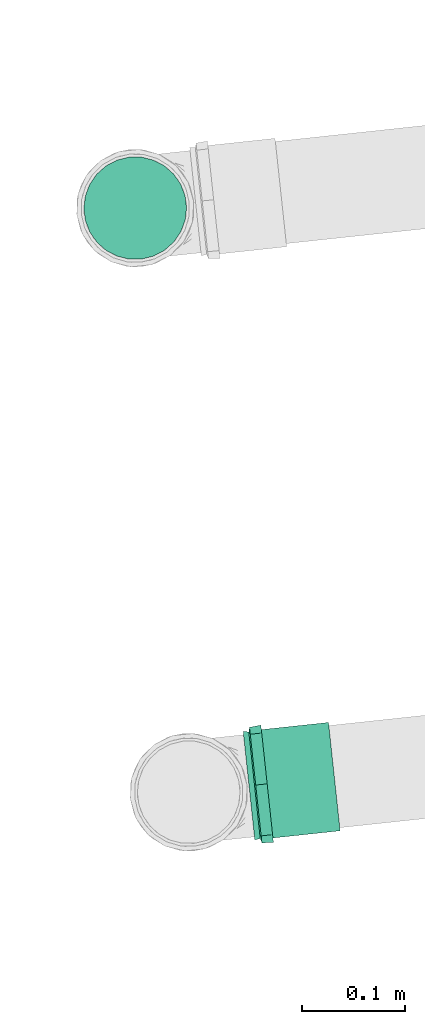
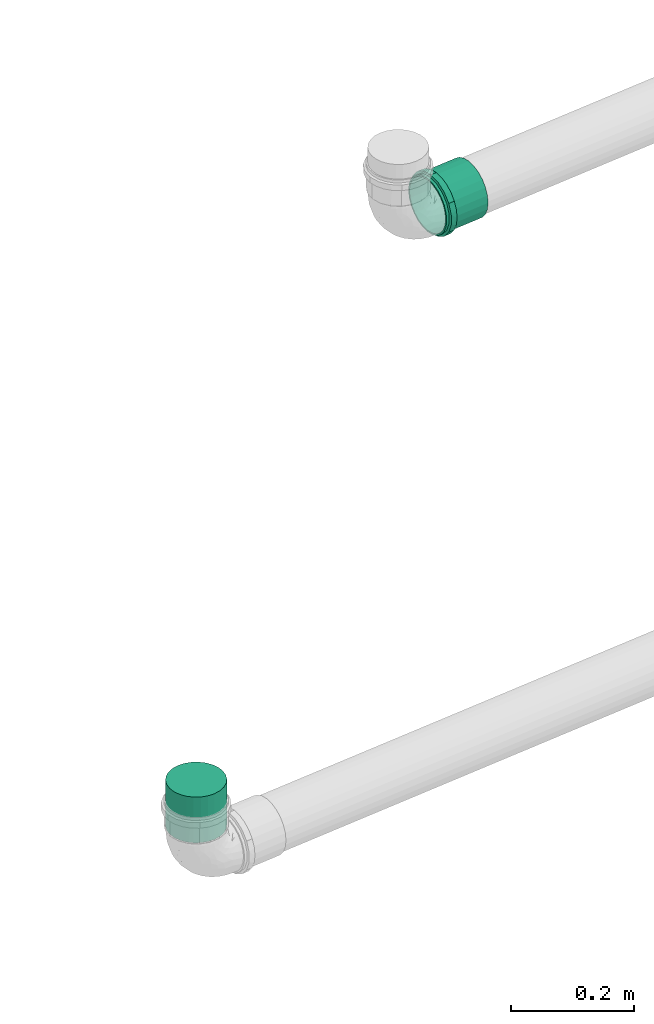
# One storey, part 40 of 97: 1 flow fitting, 1 flow segment.
"""IFC2X3 building model written with IfcOpenShell, lengths in centimetres."""

from ifc_helpers import new_model, entity, si_unit, converted_unit, derived_unit, direction, frame, origin, origin_2d_with_axis, place, context, subcontext, project, spatial, circle, extrude, faceted_brep, source, transform, mapped, material, type_object, type_shapes, element, save


model = new_model("IFC2X3")

# Units and contexts
model_context = context("Model", 3, precision=0.001, world=origin(), true_north=direction((6.12303176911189e-17, 1.0)))
body_context = subcontext(model_context, "Body", "Model", "MODEL_VIEW")
ifc_project = project(units=[si_unit("LENGTHUNIT", "METRE", prefix="CENTI"), si_unit("AREAUNIT", "SQUARE_METRE"), si_unit("VOLUMEUNIT", "CUBIC_METRE"), converted_unit("PLANEANGLEUNIT", "DEGREE", entity("IfcRatioMeasure", 0.0174532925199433), si_unit("PLANEANGLEUNIT", "RADIAN"), dimensions=[0, 0, 0, 0, 0, 0, 0]), si_unit("MASSUNIT", "GRAM", prefix="KILO"), derived_unit("MASSDENSITYUNIT", [(si_unit("MASSUNIT", "GRAM", prefix="KILO"), 1), (si_unit("LENGTHUNIT", "METRE"), -3)]), derived_unit("MOMENTOFINERTIAUNIT", [(si_unit("LENGTHUNIT", "METRE"), 4)]), si_unit("TIMEUNIT", "SECOND"), si_unit("FREQUENCYUNIT", "HERTZ"), si_unit("THERMODYNAMICTEMPERATUREUNIT", "DEGREE_CELSIUS"), derived_unit("THERMALTRANSMITTANCEUNIT", [(si_unit("MASSUNIT", "GRAM", prefix="KILO"), 1), (si_unit("THERMODYNAMICTEMPERATUREUNIT", "KELVIN"), -1), (si_unit("TIMEUNIT", "SECOND"), -3)]), derived_unit("VOLUMETRICFLOWRATEUNIT", [(si_unit("LENGTHUNIT", "METRE"), 3), (si_unit("TIMEUNIT", "SECOND"), -1)]), si_unit("ELECTRICCURRENTUNIT", "AMPERE"), si_unit("ELECTRICVOLTAGEUNIT", "VOLT"), si_unit("POWERUNIT", "WATT"), si_unit("FORCEUNIT", "NEWTON", prefix="KILO"), si_unit("ILLUMINANCEUNIT", "LUX"), si_unit("LUMINOUSFLUXUNIT", "LUMEN"), si_unit("LUMINOUSINTENSITYUNIT", "CANDELA"), derived_unit("USERDEFINED", [(si_unit("MASSUNIT", "GRAM", prefix="KILO"), -1), (si_unit("LENGTHUNIT", "METRE"), -2), (si_unit("TIMEUNIT", "SECOND"), 3), (si_unit("LUMINOUSFLUXUNIT", "LUMEN"), 1)]), derived_unit("LINEARVELOCITYUNIT", [(si_unit("LENGTHUNIT", "METRE"), 1), (si_unit("TIMEUNIT", "SECOND"), -1)]), si_unit("PRESSUREUNIT", "PASCAL"), derived_unit("USERDEFINED", [(si_unit("LENGTHUNIT", "METRE"), -2), (si_unit("MASSUNIT", "GRAM", prefix="KILO"), 1), (si_unit("TIMEUNIT", "SECOND"), -2)]), derived_unit("LINEARFORCEUNIT", [(si_unit("MASSUNIT", "GRAM", prefix="KILO"), 1), (si_unit("LENGTHUNIT", "METRE"), 1), (si_unit("TIMEUNIT", "SECOND"), -2), (si_unit("LENGTHUNIT", "METRE"), -1)]), derived_unit("PLANARFORCEUNIT", [(si_unit("MASSUNIT", "GRAM", prefix="KILO"), 1), (si_unit("LENGTHUNIT", "METRE"), 1), (si_unit("TIMEUNIT", "SECOND"), -2), (si_unit("LENGTHUNIT", "METRE"), -2)])], contexts=[model_context])

# Site, building, storey
site_placement = place(None, origin())
site = spatial("IfcSite", under=ifc_project, at=site_placement, Name="Default", CompositionType="ELEMENT")
building_placement = place(site_placement, origin())
building = spatial("IfcBuilding", under=site, at=building_placement, Name="HIDROSSANITÁRIO", CompositionType="ELEMENT")
storey_placement = place(building_placement, frame((0.0, 0.0, -260.0)))
storey = spatial("IfcBuildingStorey", under=building, at=storey_placement, Name="TÉRREO-HID", CompositionType="ELEMENT", Elevation=-260.0)

# Flow segment
pipe_segment_type = type_object("IfcPipeSegmentType", Name="Tipos de tubos:Tubo - Esgoto - Série Normal", PredefinedType="NOTDEFINED")
flow_segment_placement = place(storey_placement, origin())
element("IfcFlowSegment", 1, at=flow_segment_placement, inside=storey, type_object=pipe_segment_type, Name="Tipos de tubos:Tubo - Esgoto - Série Normal", ObjectType="Tipos de tubos:Tubo - Esgoto - Série Normal", context=body_context, shape_type="SweptSolid", body=[
    extrude(circle(Radius=5.0, at=origin_2d_with_axis()), frame((2768.67605010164, 1394.24133598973, 466.4), z_axis=(0.0, 0.0, 1.0), x_axis=(-1.0, 0.0, 0.0)), (0.0, 0.0, 1.0), 9.09999999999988),
])

# Flow fitting
ifc_material = material(Name="PVC Branco")
pipe_fitting_type = type_object("IfcPipeFittingType", Name="Luva Simples para Conexão - Serie Normal - Esgoto - MEP - Tigre:Standard", PredefinedType="NOTDEFINED", material=ifc_material)
shared_shape = source(origin(), body_context, "Body", "Brep", [
    faceted_brep([(1.77700000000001, 2.8725, -4.9753159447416), (1.77700000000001, 4.06232845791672, -4.06232845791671), (1.77700000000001, 2.65249999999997, -4.59426476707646), (1.77700000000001, 1.37303503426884, -5.12423650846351), (1.77700000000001, 1.48691541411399, -5.5492438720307), (1.77700000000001, 3.75120147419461, -3.75120147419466), (1.77700000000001, 4.9753159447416, -2.8725), (1.77700000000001, 4.59426476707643, -2.65250000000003), (1.77700000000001, 5.1242365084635, -1.37303503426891), (1.77700000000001, 5.5492438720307, -1.48691541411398), (1.77700000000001, 5.305, 0.0), (1.77700000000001, 5.745, 0.0), (1.77700000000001, 5.1242365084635, 1.3730350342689), (1.77700000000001, 5.54924387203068, 1.48691541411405), (1.77700000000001, 4.59426476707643, 2.65250000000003), (1.77700000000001, 4.97531594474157, 2.87250000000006), (1.77700000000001, 3.75120147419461, 3.75120147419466), (1.77700000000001, 4.06232845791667, 4.06232845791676), (1.77700000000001, 2.65249999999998, 4.59426476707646), (1.77700000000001, 2.87249999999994, 4.97531594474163), (1.77700000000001, 1.37303503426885, 5.12423650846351), (1.77700000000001, 1.48691541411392, 5.54924387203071), (1.77700000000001, 0.0, 5.305), (1.77700000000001, 0.0, 5.745), (1.77700000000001, -1.37303503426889, 5.1242365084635), (1.77700000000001, -1.48691541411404, 5.54924387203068), (1.77700000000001, -2.65250000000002, 4.59426476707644), (1.77700000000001, -2.87250000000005, 4.97531594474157), (1.77700000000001, -3.75120147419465, 3.75120147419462), (1.77700000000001, -4.06232845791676, 4.06232845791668), (1.77700000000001, -4.59426476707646, 2.65249999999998), (1.77700000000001, -4.97531594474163, 2.87249999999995), (1.77700000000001, -5.54924387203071, 1.48691541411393), (1.77700000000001, -5.12423650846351, 1.37303503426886), (1.77700000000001, -5.745, 0.0), (1.77700000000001, -5.305, 0.0), (1.77700000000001, -5.54924387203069, -1.486915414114), (1.77700000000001, -5.12423650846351, -1.37303503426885), (1.77700000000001, -4.97531594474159, -2.87250000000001), (1.77700000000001, -4.59426476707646, -2.65249999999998), (1.77700000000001, -4.06232845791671, -4.06232845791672), (1.77700000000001, -3.75120147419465, -3.75120147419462), (1.77700000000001, -2.87249999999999, -4.97531594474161), (1.77700000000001, -2.65250000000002, -4.59426476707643), (1.77700000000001, -1.48691541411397, -5.5492438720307), (1.77700000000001, -1.3730350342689, -5.1242365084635), (1.77700000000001, 0.0, -5.745), (1.77700000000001, 0.0, -5.305), (0.657000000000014, -1.93463887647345, 5.31665771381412), (0.657000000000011, -4.4007619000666, 3.69300957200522), (0.657000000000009, -4.89962626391, 2.82901737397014), (0.657000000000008, -5.39849062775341, 1.96502517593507), (0.657000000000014, -2.87216972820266, 4.97550661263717), (0.657000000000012, -3.63646581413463, 4.3342580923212), (0.657000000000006, -5.5717453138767, 0.982512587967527), (0.657000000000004, -5.745, 0.0), (0.657000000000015, -0.997108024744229, 5.65780881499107), (0.657000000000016, 0.998234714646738, 5.65761013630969), (0.657000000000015, 0.0005633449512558, 5.65770947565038), (0.657000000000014, 3.63732887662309, 4.33353383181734), (0.657000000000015, 1.93569761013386, 5.31627233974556), (0.657000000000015, 2.87316050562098, 4.97493454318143), (0.65700000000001, 5.39888184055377, 1.96395006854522), (0.657000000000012, 4.90018954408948, 2.82804159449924), (0.657000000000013, 4.40149724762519, 3.69213312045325), (0.657000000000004, 5.745, 0.0), (0.656999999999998, 4.40149724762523, -3.6921331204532), (0.657, 4.90018954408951, -2.82804159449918), (0.657000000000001, 5.39888184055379, -1.96395006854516), (0.656999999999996, 2.87316050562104, -4.9749345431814), (0.656999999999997, 3.63732887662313, -4.3335338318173), (0.656999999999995, 1.93569761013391, -5.31627233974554), (0.656999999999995, 0.998234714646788, -5.65761013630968), (0.656999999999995, -0.997108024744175, -5.65780881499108), (0.656999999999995, 0.000563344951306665, -5.65770947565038), (0.656999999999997, -3.6364658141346, -4.33425809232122), (0.656999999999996, -2.87216972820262, -4.9755066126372), (0.656999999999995, -1.9346388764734, -5.31665771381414), (0.657000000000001, -5.39849062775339, -1.96502517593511), (0.657, -4.89962626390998, -2.82901737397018), (0.656999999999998, -4.40076190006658, -3.69300957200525), (0.657000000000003, -5.5717453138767, -0.982512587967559), (8.35200000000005, 2.6525, -4.59426476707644), (8.35200000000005, 3.75120147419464, -3.75120147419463), (8.35200000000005, 2.49999999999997, -4.33012701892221), (8.35200000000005, 1.29409522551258, -4.82962913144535), (8.35200000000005, 1.37303503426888, -5.1242365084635), (8.35200000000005, 3.53553390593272, -3.53553390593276), (8.35200000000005, 4.59426476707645, -2.6525), (8.35200000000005, 4.33012701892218, -2.50000000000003), (8.35200000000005, 4.82962913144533, -1.29409522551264), (8.35200000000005, 5.12423650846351, -1.37303503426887), (8.35200000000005, 5.0, 0.0), (8.35200000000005, 5.305, 0.0), (8.35200000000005, 4.82962913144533, 1.29409522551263), (8.35200000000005, 5.12423650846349, 1.37303503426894), (8.35200000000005, 4.33012701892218, 2.50000000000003), (8.35200000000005, 4.59426476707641, 2.65250000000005), (8.35200000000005, 3.53553390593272, 3.53553390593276), (8.35200000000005, 3.75120147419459, 3.75120147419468), (8.35200000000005, 2.49999999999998, 4.33012701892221), (8.35200000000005, 2.65249999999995, 4.59426476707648), (8.35200000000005, 1.29409522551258, 4.82962913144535), (8.35200000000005, 1.37303503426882, 5.12423650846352), (8.35200000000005, 0.0, 5.0), (8.35200000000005, 0.0, 5.305), (8.35200000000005, -1.29409522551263, 4.82962913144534), (8.35200000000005, -1.37303503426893, 5.12423650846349), (8.35200000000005, -2.50000000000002, 4.33012701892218), (8.35200000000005, -2.65250000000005, 4.59426476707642), (8.35200000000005, -3.53553390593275, 3.53553390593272), (8.35200000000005, -3.75120147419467, 3.7512014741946), (8.35200000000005, -4.3301270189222, 2.49999999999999), (8.35200000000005, -4.59426476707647, 2.65249999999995), (8.35200000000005, -5.12423650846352, 1.37303503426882), (8.35200000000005, -4.82962913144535, 1.29409522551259), (8.35200000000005, -5.305, 0.0), (8.35200000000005, -5.0, 0.0), (8.35200000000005, -5.1242365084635, -1.37303503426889), (8.35200000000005, -4.82962913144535, -1.29409522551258), (8.35200000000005, -4.59426476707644, -2.65250000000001), (8.35200000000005, -4.3301270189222, -2.49999999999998), (8.35200000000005, -3.75120147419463, -3.75120147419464), (8.35200000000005, -3.53553390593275, -3.53553390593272), (8.35200000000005, -2.65249999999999, -4.59426476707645), (8.35200000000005, -2.50000000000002, -4.33012701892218), (8.35200000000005, -1.37303503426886, -5.12423650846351), (8.35200000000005, -1.29409522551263, -4.82962913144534), (8.35200000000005, 0.0, -5.305), (8.35200000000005, 0.0, -5.0), (0.0, 2.49999999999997, -4.33012701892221), (0.0, 3.75120147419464, -3.75120147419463), (0.0, 2.6525, -4.59426476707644), (0.0, 1.29409522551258, -4.82962913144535), (0.0, 3.53553390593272, -3.53553390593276), (0.0, 4.59426476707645, -2.6525), (0.0, 4.33012701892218, -2.50000000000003), (0.0, 4.82962913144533, -1.29409522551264), (0.0, 5.12423650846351, -1.37303503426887), (0.0, 5.0, 0.0), (0.0, 5.305, 0.0), (0.0, 4.82962913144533, 1.29409522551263), (0.0, 5.12423650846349, 1.37303503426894), (0.0, 4.33012701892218, 2.50000000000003), (0.0, 4.59426476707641, 2.65250000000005), (0.0, 3.53553390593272, 3.53553390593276), (0.0, 3.75120147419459, 3.75120147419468), (0.0, 2.49999999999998, 4.33012701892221), (0.0, 2.65249999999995, 4.59426476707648), (0.0, 1.29409522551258, 4.82962913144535), (0.0, 1.37303503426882, 5.12423650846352), (0.0, 0.0, 5.0), (0.0, 0.0, 5.305), (0.0, -1.29409522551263, 4.82962913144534), (0.0, -1.37303503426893, 5.12423650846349), (0.0, -2.50000000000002, 4.33012701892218), (0.0, -2.65250000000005, 4.59426476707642), (0.0, -3.53553390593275, 3.53553390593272), (0.0, -3.75120147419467, 3.7512014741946), (0.0, -4.3301270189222, 2.49999999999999), (0.0, -4.59426476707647, 2.65249999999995), (0.0, -5.12423650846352, 1.37303503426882), (0.0, -4.82962913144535, 1.29409522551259), (0.0, -5.305, 0.0), (0.0, -5.0, 0.0), (0.0, -5.1242365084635, -1.37303503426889), (0.0, -4.82962913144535, -1.29409522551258), (0.0, -4.59426476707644, -2.65250000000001), (0.0, -4.3301270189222, -2.49999999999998), (0.0, -3.75120147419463, -3.75120147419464), (0.0, -3.53553390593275, -3.53553390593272), (0.0, -2.65249999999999, -4.59426476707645), (0.0, -2.50000000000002, -4.33012701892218), (0.0, -1.37303503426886, -5.12423650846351), (0.0, -1.29409522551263, -4.82962913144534), (0.0, 0.0, -5.305), (0.0, 0.0, -5.0), (0.0, 1.37303503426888, -5.1242365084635), (0.537000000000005, -5.305, 0.0), (0.537000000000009, -4.98507989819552, 1.81438788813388), (0.537000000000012, -4.06390540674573, 3.4099410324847), (0.537000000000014, -2.65258010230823, 4.59421851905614), (0.537000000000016, -0.921325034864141, 5.22438371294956), (0.537000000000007, 5.1449924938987, 0.907324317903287), (0.537000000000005, 5.305, 0.0), (0.537000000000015, 2.65233979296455, 4.59435725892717), (0.537000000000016, 0.921051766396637, 5.22443189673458), (0.537000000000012, 4.06372704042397, 3.41015359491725), (0.537000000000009, 4.9849849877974, 1.81464863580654), (0.537000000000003, 5.14499249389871, -0.907324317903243), (0.537000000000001, 4.98498498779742, -1.81464863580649), (0.536999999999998, 4.063727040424, -3.41015359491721), (0.536999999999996, 2.6523397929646, -4.59435725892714), (0.536999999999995, 0.921051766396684, -5.22443189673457), (0.536999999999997, -2.6525801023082, -4.59421851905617), (0.536999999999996, -0.921325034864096, -5.22438371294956), (0.536999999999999, -4.0639054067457, -3.40994103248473), (0.537000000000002, -4.98507989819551, -1.81438788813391), (5.0, -5.0, 0.0), (5.0, 5.0, 0.0)], [[[0, 1, 2]], [[0, 2, 3]], [[3, 4, 0]], [[2, 1, 5]], [[6, 5, 1]], [[5, 6, 7]], [[7, 6, 8]], [[9, 8, 6]], [[9, 10, 8]], [[10, 9, 11]], [[12, 10, 11]], [[11, 13, 12]], [[12, 13, 14]], [[15, 14, 13]], [[14, 15, 16]], [[16, 15, 17]], [[18, 16, 17]], [[17, 19, 18]], [[18, 19, 20]], [[21, 20, 19]], [[20, 21, 22]], [[22, 21, 23]], [[22, 23, 24]], [[24, 23, 25]], [[24, 25, 26]], [[27, 26, 25]], [[27, 28, 26]], [[28, 27, 29]], [[29, 30, 28]], [[31, 30, 29]], [[30, 31, 32]], [[32, 33, 30]], [[34, 33, 32]], [[34, 35, 33]], [[36, 35, 34]], [[36, 37, 35]], [[37, 36, 38]], [[38, 39, 37]], [[39, 38, 40]], [[39, 40, 41]], [[40, 42, 41]], [[41, 42, 43]], [[43, 42, 44]], [[44, 45, 43]], [[46, 45, 44]], [[4, 47, 46]], [[46, 47, 45]], [[4, 3, 47]], [[48, 27, 25]], [[31, 29, 49]], [[31, 49, 50, 51]], [[52, 53, 27]], [[32, 51, 54]], [[54, 55, 34]], [[54, 34, 32]], [[25, 56, 48]], [[49, 29, 53]], [[23, 57, 58, 56]], [[59, 19, 17]], [[27, 53, 29]], [[48, 52, 27]], [[31, 51, 32]], [[57, 23, 21]], [[60, 19, 61]], [[15, 62, 63, 64]], [[19, 60, 21]], [[15, 13, 62]], [[17, 64, 59]], [[57, 21, 60]], [[23, 56, 25]], [[15, 64, 17]], [[13, 65, 62]], [[13, 11, 65]], [[59, 61, 19]], [[65, 11, 9]], [[6, 1, 66]], [[6, 66, 67, 68]], [[69, 70, 0]], [[68, 65, 9]], [[71, 69, 0]], [[71, 0, 4]], [[4, 72, 71]], [[66, 1, 70]], [[46, 73, 74, 72]], [[75, 76, 42]], [[0, 70, 1]], [[75, 42, 40]], [[6, 68, 9]], [[73, 46, 44]], [[77, 42, 76]], [[38, 78, 79, 80]], [[42, 77, 44]], [[38, 36, 78]], [[40, 80, 75]], [[73, 44, 77]], [[46, 72, 4]], [[38, 80, 40]], [[81, 78, 36]], [[55, 81, 34]], [[34, 81, 36]], [[82, 83, 84]], [[82, 84, 85]], [[85, 86, 82]], [[84, 83, 87]], [[88, 87, 83]], [[87, 88, 89]], [[89, 88, 90]], [[91, 90, 88]], [[91, 92, 90]], [[92, 91, 93]], [[94, 92, 93]], [[93, 95, 94]], [[94, 95, 96]], [[97, 96, 95]], [[96, 97, 98]], [[98, 97, 99]], [[100, 98, 99]], [[99, 101, 100]], [[100, 101, 102]], [[103, 102, 101]], [[102, 103, 104]], [[104, 103, 105]], [[104, 105, 106]], [[106, 105, 107]], [[106, 107, 108]], [[109, 108, 107]], [[110, 108, 109]], [[110, 109, 111]], [[111, 112, 110]], [[113, 112, 111]], [[112, 113, 114]], [[114, 115, 112]], [[116, 115, 114]], [[116, 117, 115]], [[118, 117, 116]], [[118, 119, 117]], [[119, 118, 120]], [[120, 121, 119]], [[121, 120, 122]], [[121, 122, 123]], [[122, 124, 123]], [[125, 123, 124]], [[125, 124, 126]], [[126, 127, 125]], [[128, 127, 126]], [[86, 129, 128]], [[128, 129, 127]], [[86, 85, 129]], [[130, 131, 132]], [[133, 130, 132]], [[134, 131, 130]], [[131, 134, 135]], [[136, 135, 134]], [[137, 135, 136]], [[135, 137, 138]], [[137, 139, 138]], [[140, 138, 139]], [[140, 139, 141]], [[141, 142, 140]], [[143, 142, 141]], [[142, 143, 144]], [[145, 144, 143]], [[146, 144, 145]], [[146, 145, 147]], [[147, 148, 146]], [[149, 148, 147]], [[148, 149, 150]], [[151, 150, 149]], [[152, 150, 151]], [[153, 152, 151]], [[154, 152, 153]], [[155, 154, 153]], [[154, 155, 156]], [[156, 155, 157]], [[158, 156, 157]], [[157, 159, 158]], [[158, 159, 160]], [[161, 160, 159]], [[159, 162, 161]], [[161, 162, 163]], [[162, 164, 163]], [[163, 164, 165]], [[164, 166, 165]], [[167, 165, 166]], [[166, 168, 167]], [[169, 167, 168]], [[170, 169, 168]], [[170, 171, 169]], [[171, 170, 172]], [[173, 171, 172]], [[172, 174, 173]], [[173, 174, 175]], [[174, 176, 175]], [[176, 133, 177]], [[175, 176, 177]], [[132, 177, 133]], [[161, 178, 179]], [[158, 180, 181]], [[179, 180, 160]], [[181, 182, 154]], [[179, 160, 161]], [[161, 163, 178]], [[35, 116, 114, 33]], [[183, 184, 140]], [[181, 156, 158]], [[158, 160, 180]], [[181, 154, 156]], [[182, 152, 154]], [[183, 140, 142]], [[185, 150, 186]], [[187, 146, 185]], [[142, 188, 183]], [[187, 188, 144]], [[185, 148, 150]], [[150, 152, 186]], [[187, 144, 146]], [[146, 148, 185]], [[188, 142, 144]], [[186, 152, 182]], [[189, 190, 138]], [[131, 191, 192]], [[190, 191, 135]], [[192, 193, 177]], [[190, 135, 138]], [[184, 189, 140]], [[192, 132, 131]], [[131, 135, 191]], [[192, 177, 132]], [[193, 175, 177]], [[140, 189, 138]], [[194, 173, 195]], [[196, 169, 194]], [[165, 197, 178]], [[196, 197, 167]], [[165, 178, 163]], [[35, 37, 118, 116]], [[194, 171, 173]], [[173, 175, 195]], [[196, 167, 169]], [[169, 171, 194]], [[197, 165, 167]], [[195, 175, 193]], [[115, 117, 198, 164, 162]], [[155, 108, 110, 157]], [[110, 112, 159, 157]], [[112, 115, 162, 159]], [[106, 108, 155, 153]], [[153, 151, 104, 106]], [[102, 104, 151, 149]], [[102, 149, 147, 100]], [[141, 94, 96, 143]], [[96, 98, 145, 143]], [[98, 100, 147, 145]], [[92, 94, 141, 139, 199]], [[199, 139, 137, 90, 92]], [[87, 89, 136, 134]], [[134, 130, 84, 87]], [[89, 90, 137, 136]], [[85, 84, 130, 133]], [[133, 176, 129, 85]], [[127, 129, 176, 174]], [[127, 174, 172, 125]], [[166, 119, 121, 168]], [[121, 123, 170, 168]], [[123, 125, 172, 170]], [[117, 119, 166, 164, 198]], [[81, 178, 197]], [[190, 68, 67]], [[194, 75, 196]], [[193, 72, 74]], [[195, 77, 194]], [[79, 197, 196]], [[81, 55, 178]], [[192, 69, 71]], [[79, 78, 197]], [[194, 77, 76]], [[191, 66, 70]], [[80, 196, 75]], [[68, 190, 189]], [[74, 195, 193]], [[192, 71, 193]], [[190, 67, 191]], [[70, 192, 191]], [[65, 189, 184]], [[195, 73, 77]], [[193, 71, 72]], [[197, 78, 81]], [[191, 67, 66]], [[189, 65, 68]], [[196, 80, 79]], [[70, 69, 192]], [[194, 76, 75]], [[73, 195, 74]], [[65, 183, 62]], [[48, 56, 182]], [[58, 182, 56]], [[54, 51, 179]], [[59, 185, 61]], [[60, 186, 57]], [[53, 52, 181]], [[63, 187, 64]], [[58, 57, 186]], [[187, 63, 188]], [[186, 60, 185]], [[50, 49, 180]], [[185, 59, 187]], [[59, 64, 187]], [[182, 58, 186]], [[50, 179, 51]], [[54, 178, 55]], [[53, 180, 49]], [[63, 62, 188]], [[181, 48, 182]], [[183, 65, 184]], [[179, 50, 180]], [[178, 54, 179]], [[183, 188, 62]], [[180, 53, 181]], [[60, 61, 185]], [[48, 181, 52]], [[30, 33, 114, 113]], [[26, 28, 111, 109]], [[113, 111, 28, 30]], [[107, 24, 26, 109]], [[107, 105, 22, 24]], [[18, 20, 103, 101]], [[99, 16, 18, 101]], [[12, 14, 97, 95]], [[99, 97, 14, 16]], [[10, 12, 95, 93]], [[103, 20, 22, 105]], [[91, 8, 10, 93]], [[88, 7, 8, 91]], [[82, 86, 3, 2]], [[83, 5, 7, 88]], [[2, 5, 83, 82]], [[86, 128, 47, 3]], [[43, 45, 126, 124]], [[122, 41, 43, 124]], [[37, 39, 120, 118]], [[122, 120, 39, 41]], [[126, 45, 47, 128]]]),
])
type_shapes(pipe_fitting_type, [shared_shape])
flow_fitting_placement = place(storey_placement, frame((2779.74919915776, 1338.01688891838, 620.0), z_axis=(-0.106567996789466, 0.994305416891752, 0.0), x_axis=(0.994305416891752, 0.106567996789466, 0.0)))
element("IfcFlowFitting", 2, at=flow_fitting_placement, inside=storey, type_object=pipe_fitting_type, material=ifc_material, Name="Luva Simples para Conexão - Serie Normal - Esgoto - MEP - Tigre:Standard", ObjectType="Luva Simples para Conexão - Serie Normal - Esgoto - MEP - Tigre:Standard", context=body_context, shape_type="MappedRepresentation", body=[
    mapped(shared_shape, transform((0.0, 0.0, 0.0), scale=1.0)),
])

save(model, "model.ifc")
